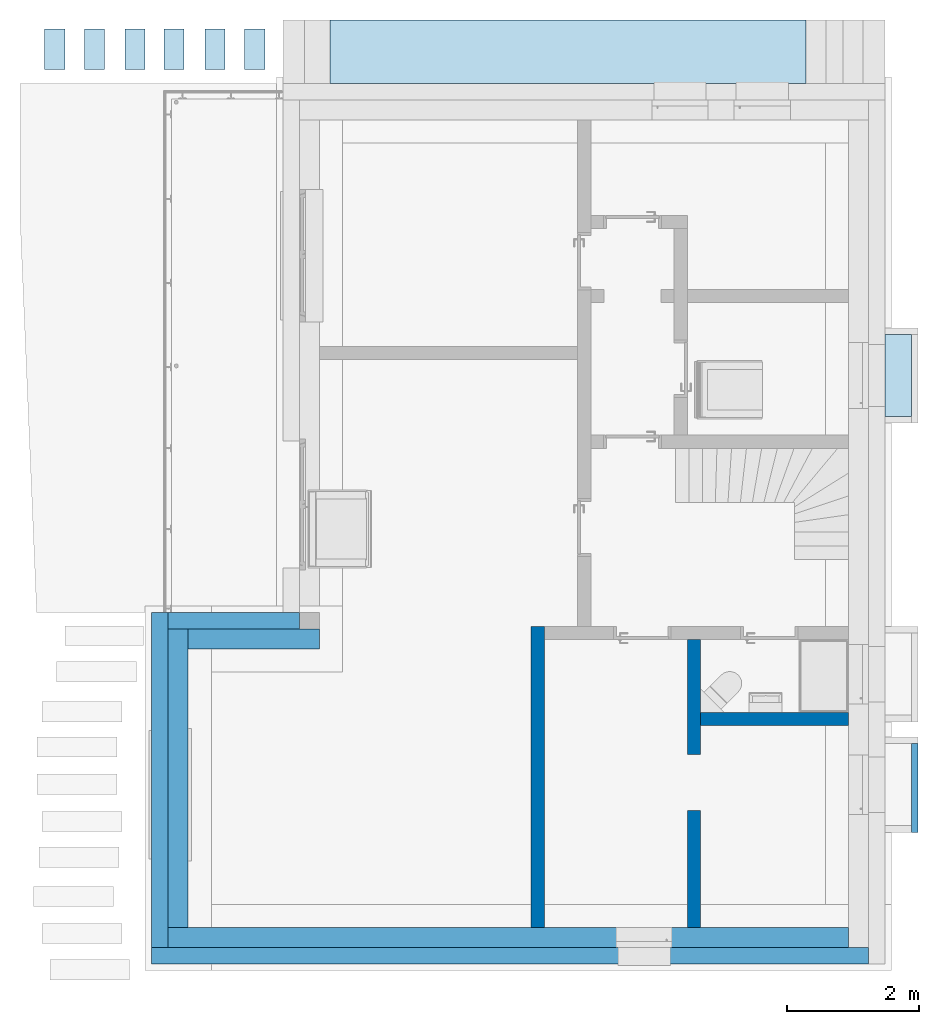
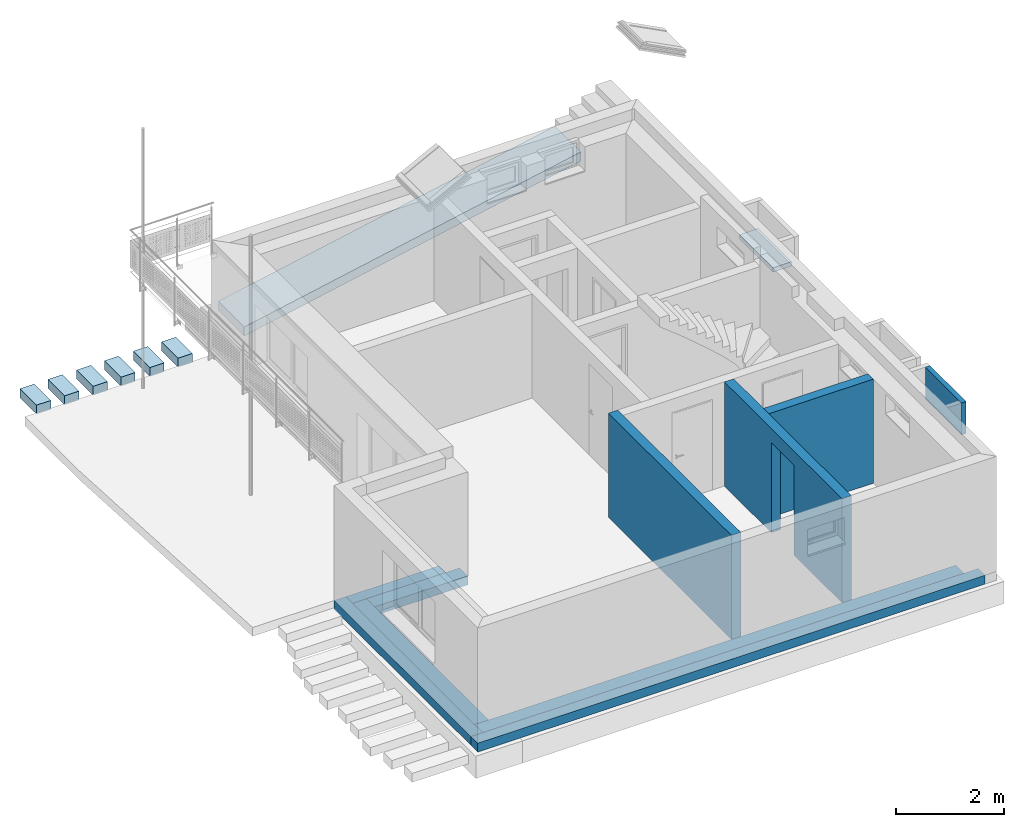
# One storey, part 2 of 22: 10 walls, 8 slabs, 1 opening.
"""IFC2X3 building model written with IfcOpenShell, lengths in metres."""

from ifc_helpers import new_model, entity, si_unit, converted_unit, derived_unit, direction, frame, frame_2d, origin, place, context, subcontext, project, spatial, polyline, rectangle, outline, extrude, clip, halfspace, bounded_halfspace, material, layer, layer_set, layer_usage, type_object, element, save


model = new_model("IFC2X3")

# Units and contexts
model_context = context("Model", 3, precision=1e-05, world=origin(), true_north=direction((6.123233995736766e-17, 1.0)))
body_context = subcontext(model_context, "Body", "Model", "MODEL_VIEW")
ifc_project = project(units=[si_unit("LENGTHUNIT", "METRE"), si_unit("AREAUNIT", "SQUARE_METRE"), si_unit("VOLUMEUNIT", "CUBIC_METRE"), si_unit("POWERUNIT", "WATT"), derived_unit("USERDEFINED", [(si_unit("MASSUNIT", "GRAM", prefix="KILO"), 1), (si_unit("TIMEUNIT", "SECOND"), -3)]), derived_unit("THERMALRESISTANCEUNIT", [(si_unit("MASSUNIT", "GRAM", prefix="KILO"), -1), (si_unit("TIMEUNIT", "SECOND"), 3), (si_unit("THERMODYNAMICTEMPERATUREUNIT", "KELVIN"), 1)]), derived_unit("USERDEFINED", [(si_unit("MASSUNIT", "GRAM", prefix="KILO"), 1), (si_unit("TIMEUNIT", "SECOND"), -2), (si_unit("THERMODYNAMICTEMPERATUREUNIT", "KELVIN"), -1)]), derived_unit("THERMALTRANSMITTANCEUNIT", [(si_unit("MASSUNIT", "GRAM", prefix="KILO"), 1), (si_unit("TIMEUNIT", "SECOND"), -3), (si_unit("THERMODYNAMICTEMPERATUREUNIT", "KELVIN"), -1)]), converted_unit("PLANEANGLEUNIT", "DEGREE", entity("IfcPlaneAngleMeasure", 0.017453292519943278), si_unit("PLANEANGLEUNIT", "RADIAN"), dimensions=[0, 0, 0, 0, 0, 0, 0]), derived_unit("MOMENTOFINERTIAUNIT", [(si_unit("LENGTHUNIT", "METRE"), 4)])], contexts=[model_context])

# Site, building, storey
site_placement = place(None, origin())
site = spatial("IfcSite", under=ifc_project, at=site_placement, Name="Default", CompositionType="ELEMENT")
building_placement = place(site_placement, origin())
building = spatial("IfcBuilding", under=site, at=building_placement, CompositionType="ELEMENT")
storey_placement = place(building_placement, origin())
storey = spatial("IfcBuildingStorey", under=building, at=storey_placement, Name="Untergeschoss", CompositionType="ELEMENT", Elevation=0.0)

# Slabs
ifc_material_1 = material(Name="Mauerwerk - Kalksandstein")
ifc_layer_1 = layer(ifc_material_1, 0.2)
ifc_layer_set_1 = layer_set([ifc_layer_1], Name="Geschossdecke:FB Hof")
ifc_layer_usage_1 = layer_usage(ifc_layer_set_1, "AXIS3", "POSITIVE", 0.0)
slab_type_1 = type_object("IfcSlabType", Name="Geschossdecke:FB Hof", PredefinedType="FLOOR", material=ifc_layer_set_1)
slab_1_placement = place(storey_placement, frame((25.935588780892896, 28.806988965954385, -0.2)))
element("IfcSlab", 1, at=slab_1_placement, inside=storey, type_object=slab_type_1, material=ifc_layer_usage_1, Name="Geschossdecke:FB Hof", ObjectType="Geschossdecke:FB Hof", PredefinedType="FLOOR", context=body_context, shape_type="SweptSolid", body=[
    extrude(rectangle(XDim=0.6108568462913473, YDim=0.30430069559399, at=frame_2d((-1.5100000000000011, 0.0), x_axis=(0.0, -1.0))), frame((1.662150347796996, 0.3054284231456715, 0.2), z_axis=(0.0, 0.0, -1.0), x_axis=(-1.0, 0.0, 0.0)), (0.0, 0.0, 1.0), 0.2),
])
slab_2_placement = place(storey_placement, frame((25.935588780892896, 28.806988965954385, -0.2)))
element("IfcSlab", 2, at=slab_2_placement, inside=storey, type_object=slab_type_1, material=ifc_layer_usage_1, Name="Geschossdecke:FB Hof:2", ObjectType="Geschossdecke:FB Hof", PredefinedType="FLOOR", context=body_context, shape_type="SweptSolid", body=[
    extrude(rectangle(XDim=0.6108568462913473, YDim=0.3043006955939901, at=frame_2d((-0.9100000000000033, 0.0), x_axis=(0.0, -1.0))), frame((1.662150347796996, 0.3054284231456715, 0.2), z_axis=(0.0, 0.0, -1.0), x_axis=(-1.0, 0.0, 0.0)), (0.0, 0.0, 1.0), 0.2),
])
slab_3_placement = place(storey_placement, frame((25.935588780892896, 28.806988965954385, -0.2)))
element("IfcSlab", 3, at=slab_3_placement, inside=storey, type_object=slab_type_1, material=ifc_layer_usage_1, Name="Geschossdecke:FB Hof:3", ObjectType="Geschossdecke:FB Hof", PredefinedType="FLOOR", context=body_context, shape_type="SweptSolid", body=[
    extrude(rectangle(XDim=0.6108568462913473, YDim=0.3043006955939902, at=frame_2d((-0.2900000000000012, 0.0), x_axis=(0.0, -1.0))), frame((1.662150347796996, 0.3054284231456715, 0.2), z_axis=(0.0, 0.0, -1.0), x_axis=(-1.0, 0.0, 0.0)), (0.0, 0.0, 1.0), 0.2),
])
slab_4_placement = place(storey_placement, frame((25.935588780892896, 28.806988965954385, -0.2)))
element("IfcSlab", 4, at=slab_4_placement, inside=storey, type_object=slab_type_1, material=ifc_layer_usage_1, Name="Geschossdecke:FB Hof:4", ObjectType="Geschossdecke:FB Hof", PredefinedType="FLOOR", context=body_context, shape_type="SweptSolid", body=[
    extrude(rectangle(XDim=0.6108568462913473, YDim=0.3043006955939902, at=frame_2d((0.2999999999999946, 0.0), x_axis=(0.0, -1.0))), frame((1.662150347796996, 0.3054284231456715, 0.2), z_axis=(0.0, 0.0, -1.0), x_axis=(-1.0, 0.0, 0.0)), (0.0, 0.0, 1.0), 0.2),
])
slab_5_placement = place(storey_placement, frame((25.935588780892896, 28.806988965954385, -0.2)))
element("IfcSlab", 5, at=slab_5_placement, inside=storey, type_object=slab_type_1, material=ifc_layer_usage_1, Name="Geschossdecke:FB Hof:5", ObjectType="Geschossdecke:FB Hof", PredefinedType="FLOOR", context=body_context, shape_type="SweptSolid", body=[
    extrude(rectangle(XDim=0.6108568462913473, YDim=0.3043006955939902, at=frame_2d((0.9099999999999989, 0.0), x_axis=(0.0, -1.0))), frame((1.662150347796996, 0.3054284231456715, 0.2), z_axis=(0.0, 0.0, -1.0), x_axis=(-1.0, 0.0, 0.0)), (0.0, 0.0, 1.0), 0.2),
])
slab_6_placement = place(storey_placement, frame((25.935588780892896, 28.806988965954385, -0.2)))
element("IfcSlab", 6, at=slab_6_placement, inside=storey, type_object=slab_type_1, material=ifc_layer_usage_1, Name="Geschossdecke:FB Hof:6", ObjectType="Geschossdecke:FB Hof", PredefinedType="FLOOR", context=body_context, shape_type="SweptSolid", body=[
    extrude(rectangle(XDim=0.6108568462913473, YDim=0.30430069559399, at=frame_2d((1.5100000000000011, 0.0), x_axis=(0.0, -1.0))), frame((1.662150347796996, 0.3054284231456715, 0.2), z_axis=(0.0, 0.0, -1.0), x_axis=(-1.0, 0.0, 0.0)), (0.0, 0.0, 1.0), 0.2),
])
ifc_layer_usage_2 = layer_usage(ifc_layer_set_1, "AXIS3", "POSITIVE", 0.0)
slab_7_placement = place(storey_placement, origin())
element("IfcSlab", 7, at=slab_7_placement, inside=storey, type_object=slab_type_1, material=ifc_layer_usage_2, Name="Geschossdecke:FB Hof", ObjectType="Geschossdecke:FB Hof", PredefinedType="FLOOR", context=body_context, shape_type="Clipping", body=[
    clip(clip(extrude(outline(polyline([(-0.4808424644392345, -3.6649971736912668), (0.4791581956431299, -3.6649971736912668), (0.48084246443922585, 3.6649971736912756), (-0.47915819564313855, 3.6649971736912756), (-0.4808424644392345, -3.6649971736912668)])), frame((33.83904180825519, 29.072272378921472, 1.1024987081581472), z_axis=(0.1959427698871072, 0.0011499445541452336, -0.9806146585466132), x_axis=(0.0, 0.9999993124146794, 0.0011726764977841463)), (-0.0011726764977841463, -0.19594263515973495, 0.9806146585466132), 0.2079855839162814), halfspace(frame((30.245089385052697, 29.07780114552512, 0.18042128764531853), z_axis=(0.19594276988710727, 0.0011499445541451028, -0.9806146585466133), x_axis=(0.9805977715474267, 0.005754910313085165, 0.1959461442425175)), False)), halfspace(frame((30.245089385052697, 29.07780114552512, 0.3843749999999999), z_axis=(-0.19594276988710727, -0.0011499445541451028, 0.9806146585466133), x_axis=(-0.9805977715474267, -0.005754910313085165, -0.1959461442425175)), False)),
])
ifc_material_2 = material(Name="Ortbeton - bewehrt")
ifc_layer_2 = layer(ifc_material_2, 0.1)
ifc_layer_set_2 = layer_set([ifc_layer_2], Name="Geschossdecke:STB 100")
ifc_layer_usage_3 = layer_usage(ifc_layer_set_2, "AXIS3", "POSITIVE", 0.0)
slab_type_2 = type_object("IfcSlabType", Name="Geschossdecke:STB 100", PredefinedType="FLOOR", material=ifc_layer_set_2)
slab_8_placement = place(storey_placement, origin())
element("IfcSlab", 8, at=slab_8_placement, inside=storey, type_object=slab_type_2, material=ifc_layer_usage_3, Name="Geschossdecke:STB 100", ObjectType="Geschossdecke:STB 100", PredefinedType="FLOOR", context=body_context, shape_type="SweptSolid", body=[
    extrude(rectangle(XDim=1.2400000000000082, YDim=0.39999999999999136, at=frame_2d((-2.1649348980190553e-15, 2.1649348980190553e-15), x_axis=(1.0, 0.0))), frame((38.82672000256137, 24.18227237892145, 1.8349609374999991), z_axis=(0.0, 0.0, -1.0), x_axis=(0.0, 1.0, 0.0)), (0.0, 0.0, 1.0), 0.1),
])

# Wall
ifc_material_3 = material(Name="Mauerwerk - Ziegel")
ifc_layer_3 = layer(ifc_material_3, 0.2)
ifc_layer_set_3 = layer_set([ifc_layer_3], Name="Basiswand:Ziegel 200")
ifc_layer_usage_4 = layer_usage(ifc_layer_set_3, "AXIS2", "POSITIVE", -0.1)
wall_type_1 = type_object("IfcWallType", Name="Basiswand:Ziegel 200", PredefinedType="STANDARD", material=ifc_layer_set_3)
wall_1_placement = place(storey_placement, frame((33.38375489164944, 15.84227237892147, 0.0), z_axis=(0.0, 0.0, 1.0), x_axis=(0.0, 1.0, 0.0)))
element("IfcWallStandardCase", 9, at=wall_1_placement, inside=storey, type_object=wall_type_1, material=ifc_layer_usage_4, Name="Basiswand:Ziegel 200", ObjectType="Basiswand:Ziegel 200", context=body_context, shape_type="Clipping", body=[
    clip(extrude(rectangle(XDim=4.549999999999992, YDim=0.19999999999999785, at=frame_2d((2.274999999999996, -6.938893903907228e-17), x_axis=(-1.0, 0.0))), origin(), (0.0, 0.0, 1.0), 2.35), bounded_halfspace(frame((0.0, -0.09999999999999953, 2.35), z_axis=(0.0, 0.0, -1.0), x_axis=(0.0, -1.0, 0.0)), True, frame((0.0, -0.09999999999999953, 2.35)), polyline([(0.0, 0.0), (4.349999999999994, 0.0), (4.549999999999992, 0.0), (4.549999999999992, 0.1999999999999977), (0.0, 0.19999999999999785), (0.0, 0.0)]))),
])

# Wall, opening
ifc_layer_usage_5 = layer_usage(ifc_layer_set_3, "AXIS2", "POSITIVE", -0.1)
wall_2_placement = place(storey_placement, frame((35.743754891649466, 20.19227237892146, 0.0), z_axis=(0.0, 0.0, 1.0), x_axis=(0.0, -1.0, 0.0)))
wall_2 = element("IfcWallStandardCase", 10, at=wall_2_placement, inside=storey, type_object=wall_type_1, material=ifc_layer_usage_5, Name="Basiswand:Ziegel 200", ObjectType="Basiswand:Ziegel 200", context=body_context, shape_type="Clipping", body=[
    clip(extrude(rectangle(XDim=4.349999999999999, YDim=0.19999999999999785, at=frame_2d((2.1749999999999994, 0.0), x_axis=(-1.0, 0.0))), origin(), (0.0, 0.0, 1.0), 2.35), bounded_halfspace(frame((0.0, -0.09999999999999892, 2.35), z_axis=(0.0, 0.0, -1.0), x_axis=(0.0, 1.0, 0.0)), True, frame((0.0, -0.09999999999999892, 2.35)), polyline([(0.0, 0.0), (4.349999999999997, 0.0), (4.349999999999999, 0.19999999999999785), (1.2999999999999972, 0.19999999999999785), (1.0999999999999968, 0.19999999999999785), (0.0, 0.19999999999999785), (0.0, 0.0)]))),
])
opening_placement = place(wall_2_placement, frame((2.578529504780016, -0.10000000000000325, 0.0)))
element("IfcOpeningElement", 11, at=opening_placement, cuts=wall_2, Name="Basiswand:Ziegel 200", ObjectType="Opening", context=body_context, shape_type="SweptSolid", body=[
    extrude(rectangle(XDim=2.0354558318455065, YDim=0.8438283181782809, at=frame_2d((0.0, -1.0824674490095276e-15), x_axis=(1.0, 0.0))), frame((-0.4219141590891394, 0.0, 1.0177279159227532), z_axis=(0.0, 1.0, 0.0), x_axis=(0.0, 0.0, -1.0)), (0.0, 0.0, 1.0), 0.19999999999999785),
])

# Walls
ifc_layer_usage_6 = layer_usage(ifc_layer_set_3, "AXIS2", "POSITIVE", -0.1)
wall_3_placement = place(storey_placement, frame((35.84375489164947, 18.992272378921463, 0.0)))
element("IfcWallStandardCase", 12, at=wall_3_placement, inside=storey, type_object=wall_type_1, material=ifc_layer_usage_6, Name="Basiswand:Ziegel 200", ObjectType="Basiswand:Ziegel 200", context=body_context, shape_type="Clipping", body=[
    clip(extrude(rectangle(XDim=2.2329651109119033, YDim=0.20000000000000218, at=frame_2d((1.1164825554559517, -3.5388358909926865e-16), x_axis=(-1.0, 0.0))), origin(), (0.0, 0.0, 1.0), 2.35), bounded_halfspace(frame((0.0, -0.09999999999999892, 2.35), z_axis=(0.0, 0.0, -1.0), x_axis=(1.0, 0.0, 0.0)), True, frame((0.0, -0.09999999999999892, 2.35)), polyline([(0.0, 0.0), (2.232965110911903, 0.0), (2.232965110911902, 0.2), (0.0, 0.2), (0.0, 0.0)]))),
])
ifc_material_4 = material(Name="Dämmung - weich")
ifc_layer_4 = layer(ifc_material_4, 0.24999999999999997)
ifc_layer_set_4 = layer_set([ifc_layer_4], Name="Basiswand:WD weich 250")
ifc_layer_usage_7 = layer_usage(ifc_layer_set_4, "AXIS2", "POSITIVE", -0.12499999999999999)
wall_type_2 = type_object("IfcWallType", Name="Basiswand:WD weich 250", PredefinedType="STANDARD", material=ifc_layer_set_4)
wall_4_placement = place(storey_placement, frame((38.37672000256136, 15.417272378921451, -0.2), z_axis=(0.0, 0.0, 1.0), x_axis=(-1.0, 0.0, 0.0)))
element("IfcWallStandardCase", 13, at=wall_4_placement, inside=storey, type_object=wall_type_2, material=ifc_layer_usage_7, Name="Basiswand:WD weich 250", ObjectType="Basiswand:WD weich 250", context=body_context, shape_type="SweptSolid", body=[
    extrude(rectangle(XDim=10.825878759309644, YDim=0.24999999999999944, at=frame_2d((5.412939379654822, -4.163336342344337e-16), x_axis=(-1.0, 0.0))), origin(), (0.0, 0.0, 1.0), 0.2),
])
ifc_layer_usage_8 = layer_usage(ifc_layer_set_4, "AXIS2", "POSITIVE", -0.12499999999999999)
wall_5_placement = place(storey_placement, frame((27.675841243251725, 15.542272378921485, -0.2), z_axis=(0.0, 0.0, 1.0), x_axis=(0.0, 1.0, 0.0)))
element("IfcWallStandardCase", 14, at=wall_5_placement, inside=storey, type_object=wall_type_2, material=ifc_layer_usage_8, Name="Basiswand:WD weich 250", ObjectType="Basiswand:WD weich 250", context=body_context, shape_type="SweptSolid", body=[
    extrude(rectangle(XDim=5.060000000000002, YDim=0.2500000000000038, at=frame_2d((2.530000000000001, -4.85722573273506e-16), x_axis=(-1.0, 0.0))), origin(), (0.0, 0.0, 1.0), 0.2),
])
ifc_layer_usage_9 = layer_usage(ifc_layer_set_4, "AXIS2", "POSITIVE", -0.12499999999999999)
wall_6_placement = place(storey_placement, frame((27.800841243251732, 20.477272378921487, -0.2)))
element("IfcWallStandardCase", 15, at=wall_6_placement, inside=storey, type_object=wall_type_2, material=ifc_layer_usage_9, Name="Basiswand:WD weich 250", ObjectType="Basiswand:WD weich 250", context=body_context, shape_type="SweptSolid", body=[
    extrude(rectangle(XDim=1.985878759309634, YDim=0.2500000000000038, at=frame_2d((0.992939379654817, -4.85722573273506e-16), x_axis=(-1.0, 0.0))), origin(), (0.0, 0.0, 1.0), 0.2),
])
ifc_material_5 = material(Name="Ortbeton - bewehrt Verputzt")
ifc_layer_5 = layer(ifc_material_5, 0.29999999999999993)
ifc_layer_set_5 = layer_set([ifc_layer_5], Name="Basiswand:STB 300")
ifc_layer_usage_10 = layer_usage(ifc_layer_set_5, "AXIS2", "NEGATIVE", 0.14999999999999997)
wall_type_3 = type_object("IfcWallType", Name="Basiswand:STB 300", PredefinedType="STANDARD", material=ifc_layer_set_5)
wall_7_placement = place(storey_placement, frame((38.076720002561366, 15.692272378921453, -0.2), z_axis=(0.0, 0.0, 1.0), x_axis=(-1.0, 0.0, 0.0)))
element("IfcWallStandardCase", 16, at=wall_7_placement, inside=storey, type_object=wall_type_3, material=ifc_layer_usage_10, Name="Basiswand:STB 300", ObjectType="Basiswand:STB 300", context=body_context, shape_type="SweptSolid", body=[
    extrude(rectangle(XDim=10.275878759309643, YDim=0.3000000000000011, at=frame_2d((5.137939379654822, 4.85722573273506e-16), x_axis=(-1.0, 0.0))), origin(), (0.0, 0.0, 1.0), 0.2),
])
ifc_layer_usage_11 = layer_usage(ifc_layer_set_5, "AXIS2", "NEGATIVE", 0.14999999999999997)
wall_8_placement = place(storey_placement, frame((27.950841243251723, 15.842272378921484, -0.2), z_axis=(0.0, 0.0, 1.0), x_axis=(0.0, 1.0, 0.0)))
element("IfcWallStandardCase", 17, at=wall_8_placement, inside=storey, type_object=wall_type_3, material=ifc_layer_usage_11, Name="Basiswand:STB 300", ObjectType="Basiswand:STB 300", context=body_context, shape_type="SweptSolid", body=[
    extrude(rectangle(XDim=4.509999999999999, YDim=0.30000000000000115, at=frame_2d((2.2549999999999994, -6.938893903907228e-17), x_axis=(-1.0, 0.0))), origin(), (0.0, 0.0, 1.0), 0.2),
])
ifc_layer_usage_12 = layer_usage(ifc_layer_set_5, "AXIS2", "NEGATIVE", 0.14999999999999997)
wall_9_placement = place(storey_placement, frame((28.100841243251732, 20.202272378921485, -0.2)))
element("IfcWallStandardCase", 18, at=wall_9_placement, inside=storey, type_object=wall_type_3, material=ifc_layer_usage_12, Name="Basiswand:STB 300", ObjectType="Basiswand:STB 300", context=body_context, shape_type="SweptSolid", body=[
    extrude(rectangle(XDim=1.9858787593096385, YDim=0.3000000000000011, at=frame_2d((0.9929393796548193, 0.0), x_axis=(-1.0, 0.0))), origin(), (0.0, 0.0, 1.0), 0.2),
])
ifc_layer_6 = layer(ifc_material_5, 0.1)
ifc_layer_set_6 = layer_set([ifc_layer_6], Name="Basiswand:STB 100")
ifc_layer_usage_13 = layer_usage(ifc_layer_set_6, "AXIS2", "POSITIVE", -0.05)
wall_type_4 = type_object("IfcWallType", Name="Basiswand:STB 100", PredefinedType="STANDARD", material=ifc_layer_set_6)
wall_10_placement = place(storey_placement, frame((39.07672000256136, 18.622272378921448, 1.734960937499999), z_axis=(0.0, 0.0, 1.0), x_axis=(0.0, -1.0, 0.0)))
element("IfcWallStandardCase", 19, at=wall_10_placement, inside=storey, type_object=wall_type_4, material=ifc_layer_usage_13, Name="Basiswand:STB 100", ObjectType="Basiswand:STB 100", context=body_context, shape_type="SweptSolid", body=[
    extrude(rectangle(XDim=1.3400000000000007, YDim=0.0999999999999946, at=frame_2d((0.6700000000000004, 0.0), x_axis=(-1.0, 0.0))), origin(), (0.0, 0.0, 1.0), 0.7158259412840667),
])

save(model, "model.ifc")
